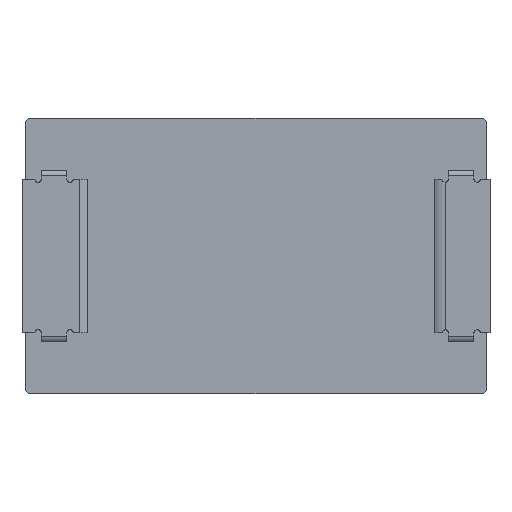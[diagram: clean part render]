
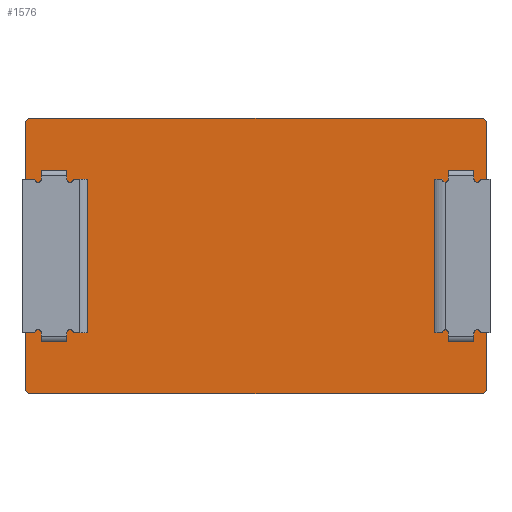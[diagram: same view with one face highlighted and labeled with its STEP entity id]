
A CAD part, front view. The second image highlights one B-rep face of the part: STEP entity #1576.
In plain terms, the highlighted planar face has unit normal (0, -1, 0).
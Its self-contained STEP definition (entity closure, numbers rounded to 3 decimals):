
#8 = ORIENTED_EDGE ( 'NONE', *, *, #126, .F. ) ;
#49 = DIRECTION ( 'NONE',  ( -1., 0., 0. ) ) ;
#126 = EDGE_CURVE ( 'NONE', #1652, #962, #1127, .T. ) ;
#145 = CARTESIAN_POINT ( 'NONE',  ( -3.5, 0., 2.15 ) ) ;
#147 = LINE ( 'NONE', #2459, #1740 ) ;
#179 = CARTESIAN_POINT ( 'NONE',  ( 3.5, 0., 2.15 ) ) ;
#241 = VERTEX_POINT ( 'NONE', #302 ) ;
#258 = EDGE_CURVE ( 'NONE', #2208, #653, #777, .T. ) ;
#302 = CARTESIAN_POINT ( 'NONE',  ( -3.5, 0., -2.15 ) ) ;
#327 = CARTESIAN_POINT ( 'NONE',  ( 3.6, 0., -2.109 ) ) ;
#391 = CARTESIAN_POINT ( 'NONE',  ( 3.5, 0., -2.15 ) ) ;
#411 = VERTEX_POINT ( 'NONE', #179 ) ;
#419 = EDGE_CURVE ( 'NONE', #2500, #411, #147, .T. ) ;
#493 = CARTESIAN_POINT ( 'NONE',  ( 3.6, 0., -2.05 ) ) ;
#602 = CARTESIAN_POINT ( 'NONE',  ( 3.6, 0., -2.15 ) ) ;
#630 = LINE ( 'NONE', #1099, #1295 ) ;
#653 = VERTEX_POINT ( 'NONE', #493 ) ;
#702 = DIRECTION ( 'NONE',  ( 0., 0., 1. ) ) ;
#703 = EDGE_CURVE ( 'NONE', #1220, #411, #1351, .T. ) ;
#736 = CARTESIAN_POINT ( 'NONE',  ( -3.6, 0., 2.05 ) ) ;
#777 =( BOUNDED_CURVE ( )  B_SPLINE_CURVE ( 3, ( #937, #1379, #327, #1173 ),
 .UNSPECIFIED., .F., .F. ) 
 B_SPLINE_CURVE_WITH_KNOTS ( ( 4, 4 ),
 ( 5.499, 7.067 ),
 .UNSPECIFIED. ) 
 CURVE ( )  GEOMETRIC_REPRESENTATION_ITEM ( )  RATIONAL_B_SPLINE_CURVE ( ( 1., 0.805, 0.805, 1. ) ) 
 REPRESENTATION_ITEM ( '' )  );
#869 = FACE_OUTER_BOUND ( 'NONE', #1038, .T. ) ;
#874 = ORIENTED_EDGE ( 'NONE', *, *, #258, .T. ) ;
#896 = CARTESIAN_POINT ( 'NONE',  ( 3.6, 0., 2.109 ) ) ;
#937 = CARTESIAN_POINT ( 'NONE',  ( 3.5, 0., -2.15 ) ) ;
#951 = CARTESIAN_POINT ( 'NONE',  ( -3.6, 0., -2.05 ) ) ;
#962 = VERTEX_POINT ( 'NONE', #1100 ) ;
#1038 = EDGE_LOOP ( 'NONE', ( #8, #2539, #2452, #874, #2346, #1855, #2064, #1483 ) ) ;
#1099 = CARTESIAN_POINT ( 'NONE',  ( -3.6, 0., -2.15 ) ) ;
#1100 = CARTESIAN_POINT ( 'NONE',  ( -3.6, 0., 2.05 ) ) ;
#1127 = LINE ( 'NONE', #1707, #2571 ) ;
#1173 = CARTESIAN_POINT ( 'NONE',  ( 3.6, 0., -2.05 ) ) ;
#1220 = VERTEX_POINT ( 'NONE', #2351 ) ;
#1249 = DIRECTION ( 'NONE',  ( 1., 0., 0. ) ) ;
#1295 = VECTOR ( 'NONE', #49, 1000. ) ;
#1351 =( BOUNDED_CURVE ( )  B_SPLINE_CURVE ( 3, ( #2616, #896, #1746, #1535 ),
 .UNSPECIFIED., .F., .T. ) 
 B_SPLINE_CURVE_WITH_KNOTS ( ( 4, 4 ),
 ( 5.499, 7.067 ),
 .UNSPECIFIED. ) 
 CURVE ( )  GEOMETRIC_REPRESENTATION_ITEM ( )  RATIONAL_B_SPLINE_CURVE ( ( 1., 0.805, 0.805, 1. ) ) 
 REPRESENTATION_ITEM ( '' )  );
#1379 = CARTESIAN_POINT ( 'NONE',  ( 3.559, 0., -2.15 ) ) ;
#1438 = EDGE_CURVE ( 'NONE', #1220, #653, #1921, .T. ) ;
#1483 = ORIENTED_EDGE ( 'NONE', *, *, #1766, .T. ) ;
#1524 =( BOUNDED_CURVE ( )  B_SPLINE_CURVE ( 3, ( #951, #2598, #1627, #2474 ),
 .UNSPECIFIED., .F., .F. ) 
 B_SPLINE_CURVE_WITH_KNOTS ( ( 4, 4 ),
 ( 5.499, 7.067 ),
 .UNSPECIFIED. ) 
 CURVE ( )  GEOMETRIC_REPRESENTATION_ITEM ( )  RATIONAL_B_SPLINE_CURVE ( ( 1., 0.805, 0.805, 1. ) ) 
 REPRESENTATION_ITEM ( '' )  );
#1535 = CARTESIAN_POINT ( 'NONE',  ( 3.5, 0., 2.15 ) ) ;
#1576 = ADVANCED_FACE ( 'NONE', ( #869 ), #2396, .F. ) ;
#1627 = CARTESIAN_POINT ( 'NONE',  ( -3.559, 0., -2.15 ) ) ;
#1652 = VERTEX_POINT ( 'NONE', #2367 ) ;
#1707 = CARTESIAN_POINT ( 'NONE',  ( -3.6, 0., -2.15 ) ) ;
#1740 = VECTOR ( 'NONE', #1249, 1000. ) ;
#1746 = CARTESIAN_POINT ( 'NONE',  ( 3.559, 0., 2.15 ) ) ;
#1766 = EDGE_CURVE ( 'NONE', #2500, #962, #2493, .T. ) ;
#1821 = VECTOR ( 'NONE', #2325, 1000. ) ;
#1855 = ORIENTED_EDGE ( 'NONE', *, *, #703, .T. ) ;
#1871 = EDGE_CURVE ( 'NONE', #2208, #241, #630, .T. ) ;
#1921 = LINE ( 'NONE', #602, #1821 ) ;
#1959 = DIRECTION ( 'NONE',  ( 0., 1., 0. ) ) ;
#2001 = CARTESIAN_POINT ( 'NONE',  ( -3.5, 0., 2.15 ) ) ;
#2013 = EDGE_CURVE ( 'NONE', #1652, #241, #1524, .T. ) ;
#2064 = ORIENTED_EDGE ( 'NONE', *, *, #419, .F. ) ;
#2159 = CARTESIAN_POINT ( 'NONE',  ( 0., 0., 0. ) ) ;
#2208 = VERTEX_POINT ( 'NONE', #391 ) ;
#2325 = DIRECTION ( 'NONE',  ( 0., 0., -1. ) ) ;
#2346 = ORIENTED_EDGE ( 'NONE', *, *, #1438, .F. ) ;
#2351 = CARTESIAN_POINT ( 'NONE',  ( 3.6, 0., 2.05 ) ) ;
#2367 = CARTESIAN_POINT ( 'NONE',  ( -3.6, 0., -2.05 ) ) ;
#2396 = PLANE ( 'NONE',  #2586 ) ;
#2430 = CARTESIAN_POINT ( 'NONE',  ( -3.559, 0., 2.15 ) ) ;
#2452 = ORIENTED_EDGE ( 'NONE', *, *, #1871, .F. ) ;
#2459 = CARTESIAN_POINT ( 'NONE',  ( -3.6, 0., 2.15 ) ) ;
#2474 = CARTESIAN_POINT ( 'NONE',  ( -3.5, 0., -2.15 ) ) ;
#2493 =( BOUNDED_CURVE ( )  B_SPLINE_CURVE ( 3, ( #2001, #2430, #2633, #736 ),
 .UNSPECIFIED., .F., .F. ) 
 B_SPLINE_CURVE_WITH_KNOTS ( ( 4, 4 ),
 ( 5.499, 7.067 ),
 .UNSPECIFIED. ) 
 CURVE ( )  GEOMETRIC_REPRESENTATION_ITEM ( )  RATIONAL_B_SPLINE_CURVE ( ( 1., 0.805, 0.805, 1. ) ) 
 REPRESENTATION_ITEM ( '' )  );
#2500 = VERTEX_POINT ( 'NONE', #145 ) ;
#2539 = ORIENTED_EDGE ( 'NONE', *, *, #2013, .T. ) ;
#2551 = DIRECTION ( 'NONE',  ( 0., 0., 1. ) ) ;
#2571 = VECTOR ( 'NONE', #2551, 1000. ) ;
#2586 = AXIS2_PLACEMENT_3D ( 'NONE', #2159, #1959, #702 ) ;
#2598 = CARTESIAN_POINT ( 'NONE',  ( -3.6, 0., -2.109 ) ) ;
#2616 = CARTESIAN_POINT ( 'NONE',  ( 3.6, 0., 2.05 ) ) ;
#2633 = CARTESIAN_POINT ( 'NONE',  ( -3.6, 0., 2.109 ) ) ;
